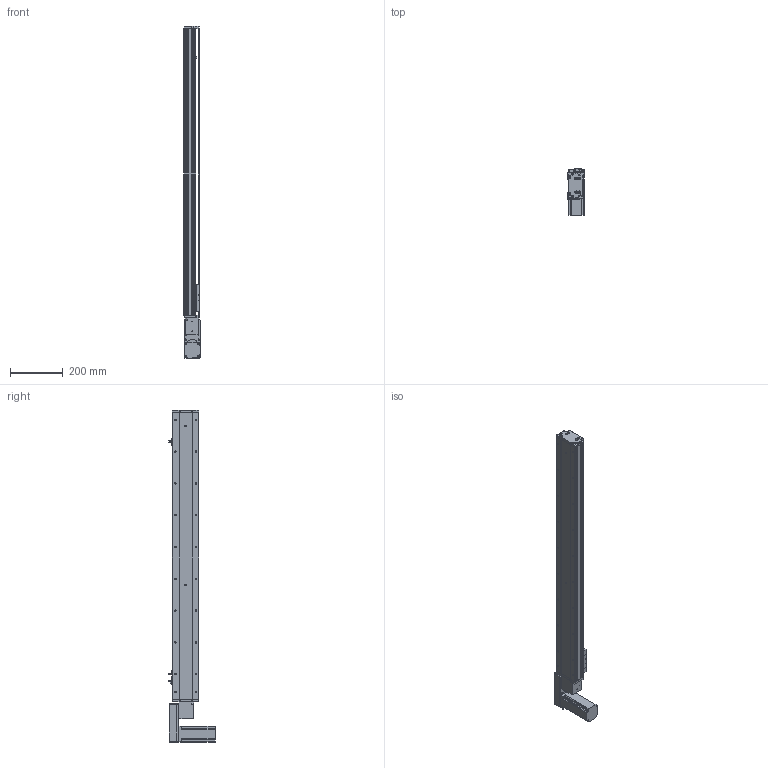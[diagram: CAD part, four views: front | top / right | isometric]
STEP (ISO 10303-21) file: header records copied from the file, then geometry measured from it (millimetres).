
FILE_DESCRIPTION (( 'STEP AP214' ), '1' );
FILE_NAME ('KSD100B-S900-MLB-CM.STEP', '2019-08-31T01:45:05', ( '微软用户' ), ( '微软中国' ), 'SwSTEP 2.0', 'SolidWorks 2014', '' );
FILE_SCHEMA (( 'AUTOMOTIVE_DESIGN' ));
Length unit declared in the file: millimetre
Products named in the file (12): KSD100B-S900-MLB-CM; 悵誘欶奻狟殏; 100宽马达安装板连板上下折丝杆同步带; 台达ECMA－C20604AS伺服电机; U倰嫖萇EEㄜSX672; 覜茼え100遵圉猾敕; 100宽防尘板900行程-同步带; 100宽马达安装板同步带左; 100宽同步带安装板半封闭; 100宽马达安装板同步带; 100遵傷啣肮祭湍; 100宽底板半封闭同步带900行程
Assembly tree (13 placements, depth 2):
  KSD100B-S900-MLB-CM
    100宽底板半封闭同步带900行程
    100遵傷啣肮祭湍
    100宽马达安装板同步带
    100宽同步带安装板半封闭
    100宽马达安装板同步带左
    100宽防尘板900行程-同步带
    覜茼え100遵圉猾敕
    U倰嫖萇EEㄜSX672  x3
    台达ECMA－C20604AS伺服电机
    100宽马达安装板连板上下折丝杆同步带
    悵誘欶奻狟殏
Bounding box: 61 x 174.7 x 1253 mm (x, y, z)
Volume: 2709230.2 mm3; surface area: 894044.9 mm2
Topology: 14 solids, 14 shells, 1453 faces, 4092 edges, 2607 vertices
Faces by surface type: cylinder 731, plane 591, cone 131
Entity records: 51697 total; most frequent: CARTESIAN_POINT 10252, DIRECTION 7088, ORIENTED_EDGE 6828, EDGE_CURVE 3414, AXIS2_PLACEMENT_3D 2589, VERTEX_POINT 2231, VECTOR 1910, LINE 1910
